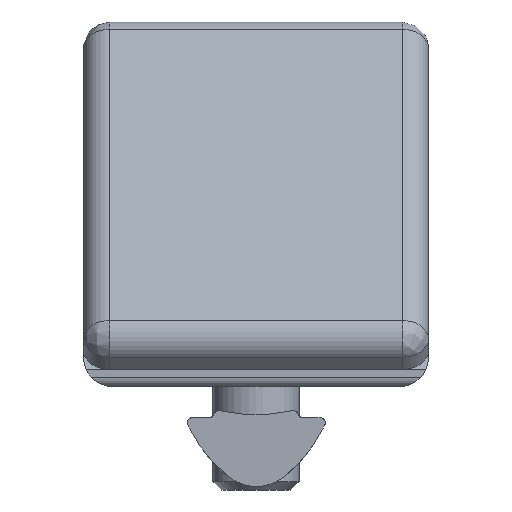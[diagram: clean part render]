
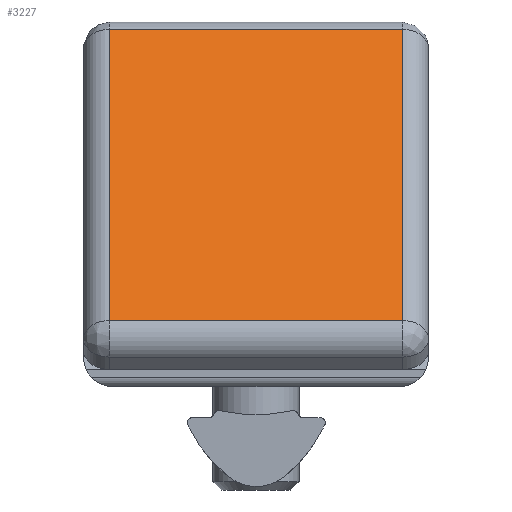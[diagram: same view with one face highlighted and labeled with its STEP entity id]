
A CAD part, front view. The second image highlights one B-rep face of the part: STEP entity #3227.
In plain terms, the highlighted planar face has unit normal (0, -0.707, 0.707).
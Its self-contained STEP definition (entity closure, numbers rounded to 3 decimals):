
#24 = AXIS2_PLACEMENT_3D ( 'NONE', #2705, #3404, #2318 ) ;
#157 = CARTESIAN_POINT ( 'NONE',  ( -8.5, -20.707, 3.828 ) ) ;
#228 = CARTESIAN_POINT ( 'NONE',  ( 8.5, -20.707, 3.828 ) ) ;
#550 = VERTEX_POINT ( 'NONE', #157 ) ;
#618 = VECTOR ( 'NONE', #4926, 1000. ) ;
#654 = EDGE_CURVE ( 'NONE', #2896, #2890, #4115, .T. ) ;
#676 = DIRECTION ( 'NONE',  ( -1., 0., 0. ) ) ;
#684 = FACE_OUTER_BOUND ( 'NONE', #4987, .T. ) ;
#745 = CARTESIAN_POINT ( 'NONE',  ( -8.5, -1.354, 23.182 ) ) ;
#1393 = ORIENTED_EDGE ( 'NONE', *, *, #654, .F. ) ;
#1450 = VECTOR ( 'NONE', #3893, 1000. ) ;
#1510 = VERTEX_POINT ( 'NONE', #2313 ) ;
#1915 = LINE ( 'NONE', #3667, #3692 ) ;
#1926 = PLANE ( 'NONE',  #24 ) ;
#2127 = EDGE_CURVE ( 'NONE', #1510, #2896, #1915, .T. ) ;
#2216 = LINE ( 'NONE', #2238, #4739 ) ;
#2235 = CARTESIAN_POINT ( 'NONE',  ( 8.5, -23.182, 1.354 ) ) ;
#2238 = CARTESIAN_POINT ( 'NONE',  ( 12., -20.707, 3.828 ) ) ;
#2313 = CARTESIAN_POINT ( 'NONE',  ( -8.5, -3.828, 20.707 ) ) ;
#2318 = DIRECTION ( 'NONE',  ( 0., 0.707, 0.707 ) ) ;
#2450 = DIRECTION ( 'NONE',  ( 1., 0., 0. ) ) ;
#2705 = CARTESIAN_POINT ( 'NONE',  ( 0., -12.268, 12.268 ) ) ;
#2890 = VERTEX_POINT ( 'NONE', #228 ) ;
#2896 = VERTEX_POINT ( 'NONE', #4465 ) ;
#3227 = ADVANCED_FACE ( 'NONE', ( #684 ), #1926, .T. ) ;
#3404 = DIRECTION ( 'NONE',  ( 0., -0.707, 0.707 ) ) ;
#3667 = CARTESIAN_POINT ( 'NONE',  ( -12., -3.828, 20.707 ) ) ;
#3692 = VECTOR ( 'NONE', #2450, 1000. ) ;
#3893 = DIRECTION ( 'NONE',  ( 0., 0.707, 0.707 ) ) ;
#4115 = LINE ( 'NONE', #2235, #618 ) ;
#4283 = LINE ( 'NONE', #745, #1450 ) ;
#4312 = ORIENTED_EDGE ( 'NONE', *, *, #5094, .F. ) ;
#4405 = EDGE_CURVE ( 'NONE', #2890, #550, #2216, .T. ) ;
#4465 = CARTESIAN_POINT ( 'NONE',  ( 8.5, -3.828, 20.707 ) ) ;
#4739 = VECTOR ( 'NONE', #676, 1000. ) ;
#4869 = ORIENTED_EDGE ( 'NONE', *, *, #4405, .F. ) ;
#4926 = DIRECTION ( 'NONE',  ( 0., -0.707, -0.707 ) ) ;
#4985 = ORIENTED_EDGE ( 'NONE', *, *, #2127, .F. ) ;
#4987 = EDGE_LOOP ( 'NONE', ( #4869, #1393, #4985, #4312 ) ) ;
#5094 = EDGE_CURVE ( 'NONE', #550, #1510, #4283, .T. ) ;
